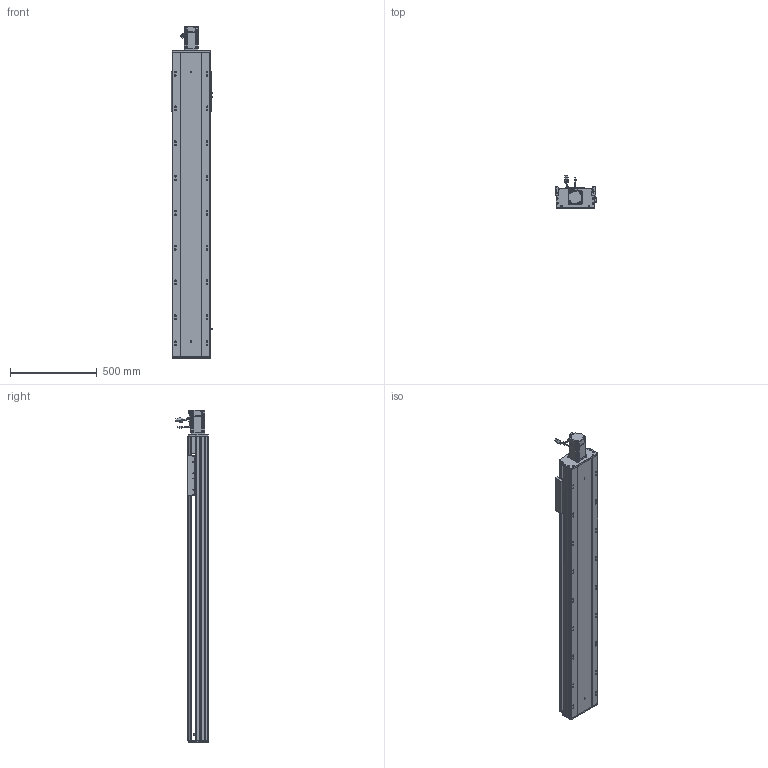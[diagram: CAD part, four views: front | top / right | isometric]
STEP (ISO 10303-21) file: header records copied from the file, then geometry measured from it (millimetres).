
FILE_DESCRIPTION (( 'STEP AP203' ), '1' );
FILE_NAME ('RY220-L2525-300-MK.SLDASM_1350.step', '2022-07-04T02:58:13', ( '' ), ( '' ), 'SwSTEP 2.0', 'SolidWorks 2016', '' );
FILE_SCHEMA (( 'CONFIG_CONTROL_DESIGN' ));
Length unit declared in the file: millimetre
Products named in the file (12): RY220半封闭25-32螺母铝滑块; 怢湛750W_ECMA-CX0807ES; RY220ヶ裔啣; RY220电机支撑座FK20（PCD90M6）; 滅袉蝶18-12; 覜茼ん672; RY220-300-奻裔啣-MK_1350; RY220-L2525-300-MK.SLDASM_1350; 滅袉蝶18-15; RY220綴裔啣; RY220-俋离672覜茼んえ; RY220菁釱MK-300_1350
Assembly tree (15 placements, depth 2):
  RY220-L2525-300-MK.SLDASM_1350
    RY220菁釱MK-300_1350
    RY220电机支撑座FK20（PCD90M6）
    怢湛750W_ECMA-CX0807ES
    滅袉蝶18-12  x2
    RY220ヶ裔啣
    RY220綴裔啣
    覜茼ん672  x3
    RY220半封闭25-32螺母铝滑块
    RY220-300-奻裔啣-MK_1350
    RY220-俋离672覜茼んえ
    滅袉蝶18-15  x2
Bounding box: 238.7 x 187.27 x 1908.3 mm (x, y, z)
Volume: 14637239.2 mm3; surface area: 4170619.3 mm2
Topology: 16 solids, 16 shells, 2290 faces, 6350 edges, 3996 vertices
Faces by surface type: cylinder 1048, plane 907, cone 273, bspline 36, sphere 16, torus 10
Entity records: 75362 total; most frequent: CARTESIAN_POINT 21377, ORIENTED_EDGE 11192, DIRECTION 10643, EDGE_CURVE 5596, AXIS2_PLACEMENT_3D 3767, VERTEX_POINT 3652, VECTOR 3109, LINE 3109
